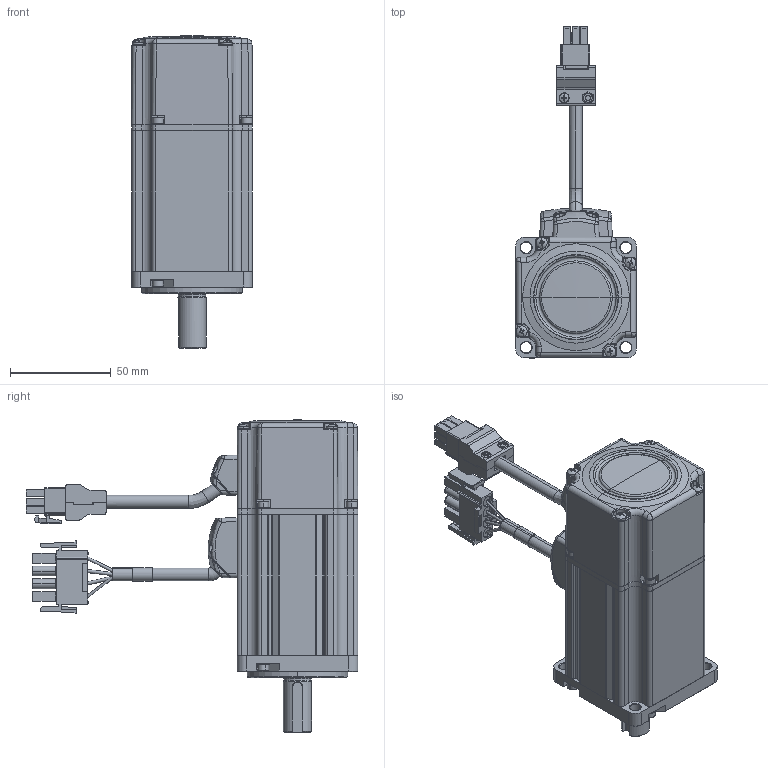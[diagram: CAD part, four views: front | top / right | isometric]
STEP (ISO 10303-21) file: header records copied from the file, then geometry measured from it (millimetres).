
FILE_DESCRIPTION (( 'STEP AP203' ), '1' );
FILE_NAME ('SM0602FE4-KCF-NNV.STEP', '2019-07-22T03:28:10', ( '' ), ( '' ), 'SwSTEP 2.0', 'SolidWorks 2014', '' );
FILE_SCHEMA (( 'CONFIG_CONTROL_DESIGN' ));
Products named in the file (1): SM0602FE4-KCF-NNV
Bounding box: 60 x 164.7 x 155 mm (x, y, z)
Surface area: 60397.3 mm2 (no closed solid volume)
Topology: 0 solids, 49 shells, 1197 faces, 3461 edges, 2300 vertices
Faces by surface type: plane 539, cylinder 306, bspline 135, cone 128, torus 69, sphere 20
Entity records: 45278 total; most frequent: CARTESIAN_POINT 14610, DIRECTION 6302, ORIENTED_EDGE 6066, EDGE_CURVE 3457, VERTEX_POINT 2300, AXIS2_PLACEMENT_3D 2218, LINE 1866, VECTOR 1866
